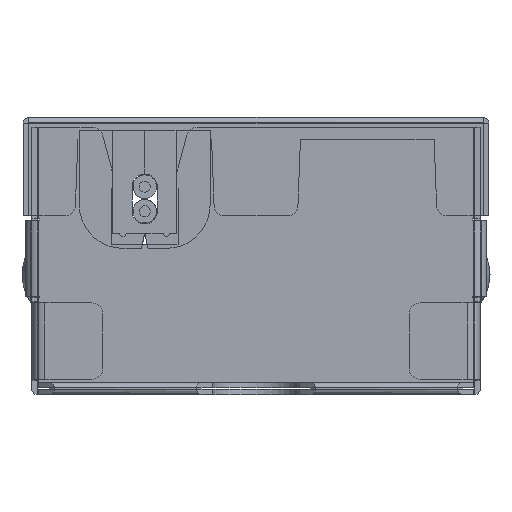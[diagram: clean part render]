
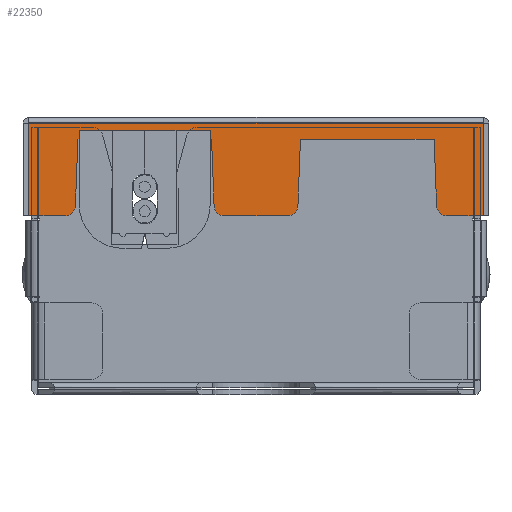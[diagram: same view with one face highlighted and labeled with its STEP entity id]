
A CAD part, left-side view. The second image highlights one B-rep face of the part: STEP entity #22350.
In plain terms, the highlighted planar face has unit normal (-1, 0, 0).
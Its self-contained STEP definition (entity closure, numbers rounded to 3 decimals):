
#7280=DIRECTION('',(0.,-1.,0.));
#7281=VECTOR('',#7280,41.68);
#7282=CARTESIAN_POINT('',(6.6,20.84,24.89));
#7283=LINE('',#7282,#7281);
#7602=DIRECTION('',(0.,0.,1.));
#7603=VECTOR('',#7602,0.8);
#7604=CARTESIAN_POINT('',(6.6,10.19,23.4));
#7605=LINE('',#7604,#7603);
#7609=DIRECTION('',(0.,-1.,0.));
#7610=VECTOR('',#7609,0.02);
#7611=CARTESIAN_POINT('',(6.6,10.21,23.4));
#7612=LINE('',#7611,#7610);
#7616=DIRECTION('',(0.,0.,-1.));
#7617=VECTOR('',#7616,0.8);
#7618=CARTESIAN_POINT('',(6.6,10.21,24.2));
#7619=LINE('',#7618,#7617);
#7623=DIRECTION('',(0.,-1.,0.));
#7624=VECTOR('',#7623,5.99);
#7625=CARTESIAN_POINT('',(6.6,16.2,24.2));
#7626=LINE('',#7625,#7624);
#7630=DIRECTION('',(0.,0.,1.));
#7631=VECTOR('',#7630,0.8);
#7632=CARTESIAN_POINT('',(6.6,16.2,23.4));
#7633=LINE('',#7632,#7631);
#7637=DIRECTION('',(0.,-1.,0.));
#7638=VECTOR('',#7637,0.125);
#7639=CARTESIAN_POINT('',(6.6,16.325,23.4));
#7640=LINE('',#7639,#7638);
#7644=DIRECTION('',(0.,-0.038,0.999));
#7645=VECTOR('',#7644,6.139);
#7646=CARTESIAN_POINT('',(6.6,16.561,17.265));
#7647=LINE('',#7646,#7645);
#7651=CARTESIAN_POINT('',(6.6,17.46,17.3));
#7652=DIRECTION('',(-1.,0.,0.));
#7653=DIRECTION('',(0.,0.,-1.));
#7654=AXIS2_PLACEMENT_3D('',#7651,#7652,#7653);
#7659=DIRECTION('',(0.,-1.,0.));
#7660=VECTOR('',#7659,3.38);
#7661=CARTESIAN_POINT('',(6.6,20.84,16.4));
#7662=LINE('',#7661,#7660);
#7666=DIRECTION('',(0.,0.,-1.));
#7667=VECTOR('',#7666,8.49);
#7668=CARTESIAN_POINT('',(6.6,20.84,24.89));
#7669=LINE('',#7668,#7667);
#7673=DIRECTION('',(0.,0.,1.));
#7674=VECTOR('',#7673,8.49);
#7675=CARTESIAN_POINT('',(6.6,-20.84,16.4));
#7676=LINE('',#7675,#7674);
#7680=DIRECTION('',(0.,-1.,0.));
#7681=VECTOR('',#7680,3.38);
#7682=CARTESIAN_POINT('',(6.6,-17.46,16.4));
#7683=LINE('',#7682,#7681);
#7687=CARTESIAN_POINT('',(6.6,-17.46,17.3));
#7688=DIRECTION('',(-1.,0.,0.));
#7689=DIRECTION('',(0.,0.999,-0.038));
#7690=AXIS2_PLACEMENT_3D('',#7687,#7688,#7689);
#7695=DIRECTION('',(0.,-0.038,-0.999));
#7696=VECTOR('',#7695,6.139);
#7697=CARTESIAN_POINT('',(6.6,-16.325,23.4));
#7698=LINE('',#7697,#7696);
#7702=DIRECTION('',(0.,-0.038,0.999));
#7703=VECTOR('',#7702,6.139);
#7704=CARTESIAN_POINT('',(6.6,-3.839,17.265));
#7705=LINE('',#7704,#7703);
#7709=CARTESIAN_POINT('',(6.6,-2.94,17.3));
#7710=DIRECTION('',(-1.,0.,0.));
#7711=DIRECTION('',(0.,0.,-1.));
#7712=AXIS2_PLACEMENT_3D('',#7709,#7710,#7711);
#7717=DIRECTION('',(0.,-1.,0.));
#7718=VECTOR('',#7717,5.88);
#7719=CARTESIAN_POINT('',(6.6,2.94,16.4));
#7720=LINE('',#7719,#7718);
#7724=CARTESIAN_POINT('',(6.6,2.94,17.3));
#7725=DIRECTION('',(-1.,0.,0.));
#7726=DIRECTION('',(0.,0.999,-0.038));
#7727=AXIS2_PLACEMENT_3D('',#7724,#7725,#7726);
#7732=DIRECTION('',(0.,-0.038,-0.999));
#7733=VECTOR('',#7732,6.139);
#7734=CARTESIAN_POINT('',(6.6,4.075,23.4));
#7735=LINE('',#7734,#7733);
#7739=DIRECTION('',(0.,-1.,0.));
#7740=VECTOR('',#7739,0.125);
#7741=CARTESIAN_POINT('',(6.6,4.2,23.4));
#7742=LINE('',#7741,#7740);
#7746=DIRECTION('',(0.,0.,-1.));
#7747=VECTOR('',#7746,0.8);
#7748=CARTESIAN_POINT('',(6.6,4.2,24.2));
#7749=LINE('',#7748,#7747);
#7753=DIRECTION('',(0.,-1.,0.));
#7754=VECTOR('',#7753,5.99);
#7755=CARTESIAN_POINT('',(6.6,10.19,24.2));
#7756=LINE('',#7755,#7754);
#15889=DIRECTION('',(0.,1.,0.));
#15890=VECTOR('',#15889,12.25);
#15891=CARTESIAN_POINT('',(6.6,-16.325,23.4));
#15892=LINE('',#15891,#15890);
#16728=CARTESIAN_POINT('',(6.6,16.561,17.265));
#16730=VERTEX_POINT('',#16728);
#16763=CARTESIAN_POINT('',(6.6,16.325,23.4));
#16764=VERTEX_POINT('',#16763);
#16827=CARTESIAN_POINT('',(6.6,-17.46,16.4));
#16828=CARTESIAN_POINT('',(6.6,-20.84,16.4));
#16829=VERTEX_POINT('',#16827);
#16830=VERTEX_POINT('',#16828);
#16877=CARTESIAN_POINT('',(6.6,20.84,16.4));
#16878=CARTESIAN_POINT('',(6.6,17.46,16.4));
#16879=VERTEX_POINT('',#16877);
#16880=VERTEX_POINT('',#16878);
#16939=CARTESIAN_POINT('',(6.6,-2.94,16.4));
#16940=CARTESIAN_POINT('',(6.6,-3.839,
17.265));
#16941=VERTEX_POINT('',#16939);
#16942=VERTEX_POINT('',#16940);
#16958=CARTESIAN_POINT('',(6.6,2.94,16.4));
#16960=VERTEX_POINT('',#16958);
#16969=CARTESIAN_POINT('',(6.6,-16.325,23.4));
#16971=VERTEX_POINT('',#16969);
#16981=CARTESIAN_POINT('',(6.6,-16.561,
17.265));
#16982=VERTEX_POINT('',#16981);
#16984=CARTESIAN_POINT('',(6.6,-20.84,24.89));
#16986=VERTEX_POINT('',#16984);
#17050=CARTESIAN_POINT('',(6.6,20.84,24.89));
#17051=VERTEX_POINT('',#17050);
#17062=CARTESIAN_POINT('',(6.6,3.839,17.265));
#17063=VERTEX_POINT('',#17062);
#17104=CARTESIAN_POINT('',(6.6,-4.075,23.4));
#17105=VERTEX_POINT('',#17104);
#17146=CARTESIAN_POINT('',(6.6,4.075,23.4));
#17147=VERTEX_POINT('',#17146);
#18973=CARTESIAN_POINT('',(6.6,10.19,23.4));
#18974=VERTEX_POINT('',#18973);
#18975=CARTESIAN_POINT('',(6.6,16.2,23.4));
#18976=VERTEX_POINT('',#18975);
#18977=CARTESIAN_POINT('',(6.6,10.21,23.4));
#18978=VERTEX_POINT('',#18977);
#18979=CARTESIAN_POINT('',(6.6,4.2,23.4));
#18980=VERTEX_POINT('',#18979);
#18981=CARTESIAN_POINT('',(6.6,10.19,24.2));
#18982=VERTEX_POINT('',#18981);
#18983=CARTESIAN_POINT('',(6.6,16.2,24.2));
#18984=VERTEX_POINT('',#18983);
#18985=CARTESIAN_POINT('',(6.6,10.21,24.2));
#18986=VERTEX_POINT('',#18985);
#18987=CARTESIAN_POINT('',(6.6,4.2,24.2));
#18988=VERTEX_POINT('',#18987);
#22304=CARTESIAN_POINT('',(6.6,20.84,24.9));
#22305=DIRECTION('',(-1.,0.,0.));
#22306=DIRECTION('',(0.,0.,-1.));
#22307=AXIS2_PLACEMENT_3D('',#22304,#22305,#22306);
#22308=PLANE('',#22307);
#22309=ORIENTED_EDGE('',*,*,#22166,.F.);
#22310=ORIENTED_EDGE('',*,*,#22190,.F.);
#22311=ORIENTED_EDGE('',*,*,#22241,.F.);
#22312=ORIENTED_EDGE('',*,*,#22274,.F.);
#22313=ORIENTED_EDGE('',*,*,#22291,.F.);
#22314=ORIENTED_EDGE('',*,*,#22205,.F.);
#22316=ORIENTED_EDGE('',*,*,#22315,.F.);
#22318=ORIENTED_EDGE('',*,*,#22317,.F.);
#22320=ORIENTED_EDGE('',*,*,#22319,.F.);
#22322=ORIENTED_EDGE('',*,*,#22321,.F.);
#22323=ORIENTED_EDGE('',*,*,#22030,.T.);
#22324=ORIENTED_EDGE('',*,*,#22097,.F.);
#22326=ORIENTED_EDGE('',*,*,#22325,.F.);
#22328=ORIENTED_EDGE('',*,*,#22327,.F.);
#22330=ORIENTED_EDGE('',*,*,#22329,.F.);
#22332=ORIENTED_EDGE('',*,*,#22331,.T.);
#22334=ORIENTED_EDGE('',*,*,#22333,.F.);
#22336=ORIENTED_EDGE('',*,*,#22335,.F.);
#22338=ORIENTED_EDGE('',*,*,#22337,.F.);
#22340=ORIENTED_EDGE('',*,*,#22339,.F.);
#22342=ORIENTED_EDGE('',*,*,#22341,.F.);
#22343=ORIENTED_EDGE('',*,*,#22217,.F.);
#22345=ORIENTED_EDGE('',*,*,#22344,.F.);
#22347=ORIENTED_EDGE('',*,*,#22346,.F.);
#22348=EDGE_LOOP('',(#22309,#22310,#22311,#22312,#22313,#22314,#22316,#22318,
#22320,#22322,#22323,#22324,#22326,#22328,#22330,#22332,#22334,#22336,#22338,
#22340,#22342,#22343,#22345,#22347));
#22349=FACE_OUTER_BOUND('',#22348,.F.);
#7655=CIRCLE('',#7654,0.9);
#7691=CIRCLE('',#7690,0.9);
#7713=CIRCLE('',#7712,0.9);
#7728=CIRCLE('',#7727,0.9);
#22030=EDGE_CURVE('',#17051,#16986,#7283,.T.);
#22097=EDGE_CURVE('',#16830,#16986,#7676,.T.);
#22166=EDGE_CURVE('',#18974,#18982,#7605,.T.);
#22190=EDGE_CURVE('',#18978,#18974,#7612,.T.);
#22205=EDGE_CURVE('',#16764,#18976,#7640,.T.);
#22217=EDGE_CURVE('',#18980,#17147,#7742,.T.);
#22241=EDGE_CURVE('',#18986,#18978,#7619,.T.);
#22274=EDGE_CURVE('',#18984,#18986,#7626,.T.);
#22291=EDGE_CURVE('',#18976,#18984,#7633,.T.);
#22315=EDGE_CURVE('',#16730,#16764,#7647,.T.);
#22317=EDGE_CURVE('',#16880,#16730,#7655,.T.);
#22319=EDGE_CURVE('',#16879,#16880,#7662,.T.);
#22321=EDGE_CURVE('',#17051,#16879,#7669,.T.);
#22325=EDGE_CURVE('',#16829,#16830,#7683,.T.);
#22327=EDGE_CURVE('',#16982,#16829,#7691,.T.);
#22329=EDGE_CURVE('',#16971,#16982,#7698,.T.);
#22331=EDGE_CURVE('',#16971,#17105,#15892,.T.);
#22333=EDGE_CURVE('',#16942,#17105,#7705,.T.);
#22335=EDGE_CURVE('',#16941,#16942,#7713,.T.);
#22337=EDGE_CURVE('',#16960,#16941,#7720,.T.);
#22339=EDGE_CURVE('',#17063,#16960,#7728,.T.);
#22341=EDGE_CURVE('',#17147,#17063,#7735,.T.);
#22344=EDGE_CURVE('',#18988,#18980,#7749,.T.);
#22346=EDGE_CURVE('',#18982,#18988,#7756,.T.);
#22350=ADVANCED_FACE('',(#22349),#22308,.T.);
